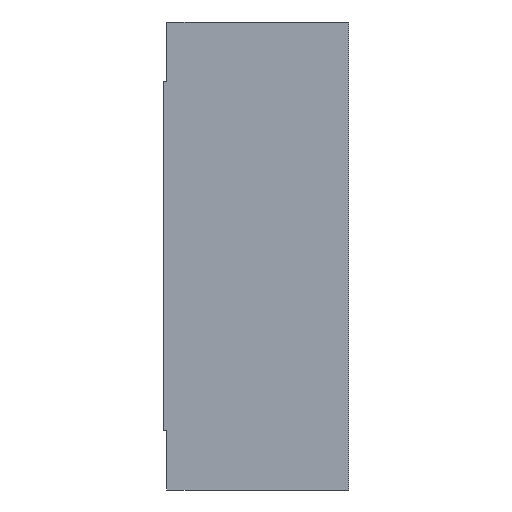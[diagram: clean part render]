
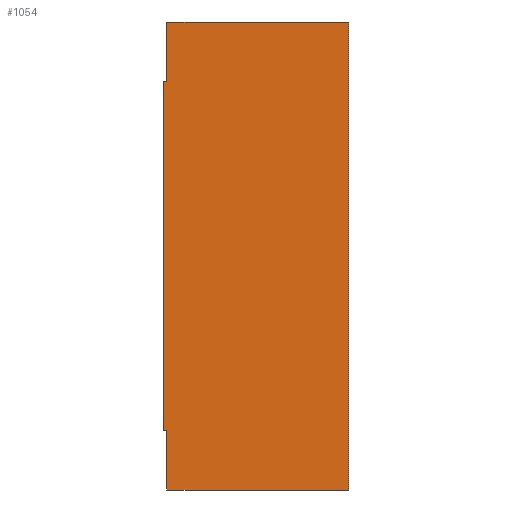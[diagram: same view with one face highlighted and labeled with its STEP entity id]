
A CAD part, left-side view. The second image highlights one B-rep face of the part: STEP entity #1054.
In plain terms, the highlighted planar face has unit normal (-1, 0, 0).
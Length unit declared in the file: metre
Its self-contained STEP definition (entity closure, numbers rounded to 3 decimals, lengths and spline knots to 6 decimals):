
#208=ORIENTED_EDGE('',*,*,#368,.T.);
#209=ORIENTED_EDGE('',*,*,#428,.F.);
#210=ORIENTED_EDGE('',*,*,#422,.T.);
#211=ORIENTED_EDGE('',*,*,#418,.T.);
#212=ORIENTED_EDGE('',*,*,#427,.F.);
#213=ORIENTED_EDGE('',*,*,#429,.T.);
#214=ORIENTED_EDGE('',*,*,#371,.F.);
#215=ORIENTED_EDGE('',*,*,#430,.F.);
#368=EDGE_CURVE('',#493,#495,#606,.T.);
#371=EDGE_CURVE('',#498,#499,#609,.T.);
#418=EDGE_CURVE('',#533,#534,#647,.T.);
#422=EDGE_CURVE('',#537,#533,#651,.T.);
#427=EDGE_CURVE('',#540,#534,#656,.T.);
#428=EDGE_CURVE('',#537,#495,#657,.T.);
#429=EDGE_CURVE('',#540,#499,#658,.T.);
#430=EDGE_CURVE('',#493,#498,#659,.T.);
#493=VERTEX_POINT('',#1561);
#495=VERTEX_POINT('',#1565);
#498=VERTEX_POINT('',#1572);
#499=VERTEX_POINT('',#1574);
#533=VERTEX_POINT('',#1673);
#534=VERTEX_POINT('',#1674);
#537=VERTEX_POINT('',#1682);
#540=VERTEX_POINT('',#1690);
#606=LINE('',#1566,#686);
#609=LINE('',#1573,#689);
#647=LINE('',#1672,#727);
#651=LINE('',#1681,#731);
#656=LINE('',#1691,#736);
#657=LINE('',#1693,#737);
#658=LINE('',#1694,#738);
#659=LINE('',#1695,#739);
#686=VECTOR('',#1244,1.);
#689=VECTOR('',#1249,1.);
#727=VECTOR('',#1341,1.);
#731=VECTOR('',#1347,1.);
#736=VECTOR('',#1354,1.);
#737=VECTOR('',#1357,1.);
#738=VECTOR('',#1358,1.);
#739=VECTOR('',#1359,1.);
#790=EDGE_LOOP('',(#208,#209,#210,#211,#212,#213,#214,#215));
#900=FACE_BOUND('',#790,.T.);
#1019=PLANE('',#1149);
#1054=ADVANCED_FACE('',(#900),#1019,.F.);
#1149=AXIS2_PLACEMENT_3D('',#1692,#1355,#1356);
#1244=DIRECTION('',(0.,-1.,0.));
#1249=DIRECTION('',(0.,-1.,0.));
#1341=DIRECTION('',(0.,0.,1.));
#1347=DIRECTION('',(0.,-1.,0.));
#1354=DIRECTION('',(0.,-1.,0.));
#1355=DIRECTION('',(1.,0.,0.));
#1356=DIRECTION('',(0.,0.,-1.));
#1357=DIRECTION('',(0.,0.,1.));
#1358=DIRECTION('',(0.,0.,-1.));
#1359=DIRECTION('',(0.,0.,1.));
#1561=CARTESIAN_POINT('',(0.,0.0265,-0.0585));
#1565=CARTESIAN_POINT('',(0.,0.026,-0.0585));
#1566=CARTESIAN_POINT('',(0.,0.0265,-0.0585));
#1572=CARTESIAN_POINT('',(0.,0.0265,-0.0085));
#1573=CARTESIAN_POINT('',(0.,0.0265,-0.0085));
#1574=CARTESIAN_POINT('',(0.,0.026,-0.0085));
#1672=CARTESIAN_POINT('',(0.,0.,0.));
#1673=CARTESIAN_POINT('',(0.,0.,-0.067));
#1674=CARTESIAN_POINT('',(0.,0.,0.));
#1681=CARTESIAN_POINT('',(0.,0.0265,-0.067));
#1682=CARTESIAN_POINT('',(0.,0.026,-0.067));
#1690=CARTESIAN_POINT('',(0.,0.026,0.));
#1691=CARTESIAN_POINT('',(0.,0.0265,0.));
#1692=CARTESIAN_POINT('',(0.,0.0265,0.));
#1693=CARTESIAN_POINT('',(0.,0.026,-0.067));
#1694=CARTESIAN_POINT('',(0.,0.026,0.));
#1695=CARTESIAN_POINT('',(0.,0.0265,0.));
